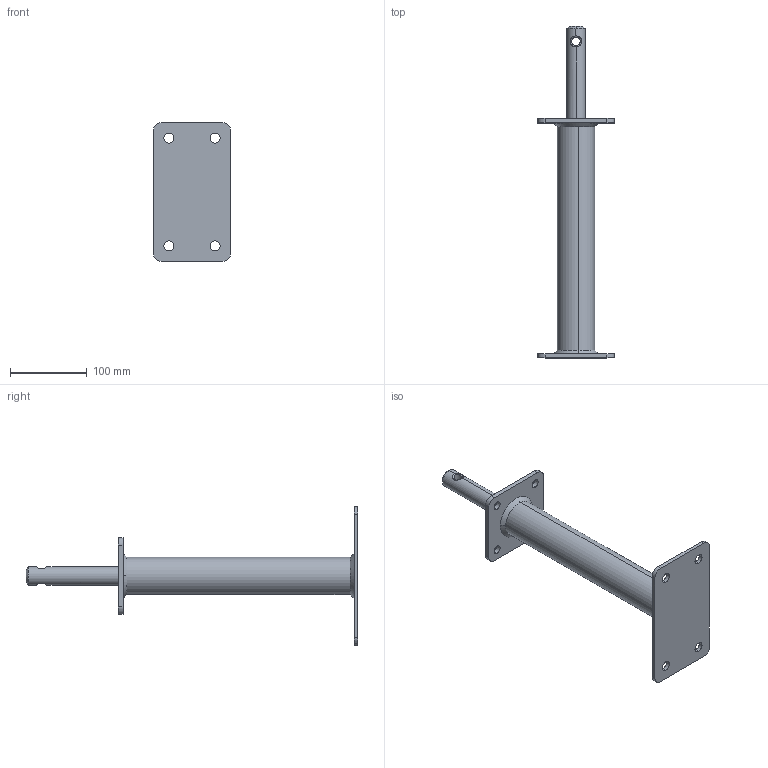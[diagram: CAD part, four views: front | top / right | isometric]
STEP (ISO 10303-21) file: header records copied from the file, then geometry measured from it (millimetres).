
FILE_DESCRIPTION (( 'STEP AP203' ), '1' );
FILE_NAME ('19823300.STEP', '2021-04-19T17:01:14', ( '' ), ( '' ), 'SwSTEP 2.0', 'SolidWorks 2013', '' );
FILE_SCHEMA (( 'CONFIG_CONTROL_DESIGN' ));
Length unit declared in the file: millimetre
Products named in the file (6): 180x100x5-4xd13-abgerundet; Standrohr-48,3x300x3,25; 100x100x6-4xd11-1xd21; 24x120; Schweissnaht-d48mm; 19823300
Assembly tree (6 placements, depth 2):
  19823300
    180x100x5-4xd13-abgerundet
    Schweissnaht-d48mm  x2
    Standrohr-48,3x300x3,25
    100x100x6-4xd11-1xd21
    24x120
Bounding box: 100 x 431 x 180 mm (x, y, z)
Volume: 338153.6 mm3; surface area: 162165.2 mm2
Topology: 6 solids, 6 shells, 64 faces, 160 edges, 104 vertices
Faces by surface type: cylinder 36, plane 18, bspline 8, cone 2
Entity records: 6350 total; most frequent: CARTESIAN_POINT 4228, DIRECTION 314, ORIENTED_EDGE 300, EDGE_CURVE 150, AXIS2_PLACEMENT_3D 126, VERTEX_POINT 98, EDGE_LOOP 78, CIRCLE 64
